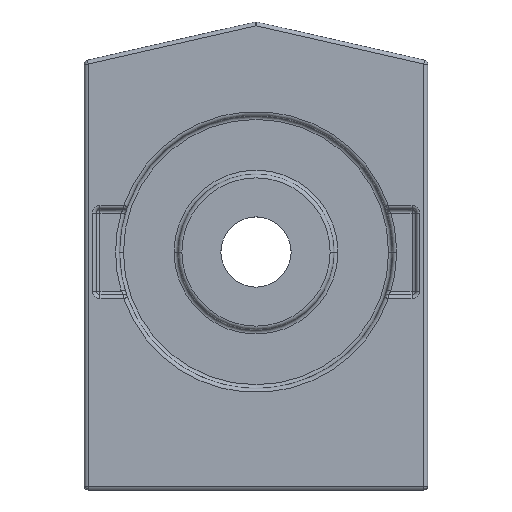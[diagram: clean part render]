
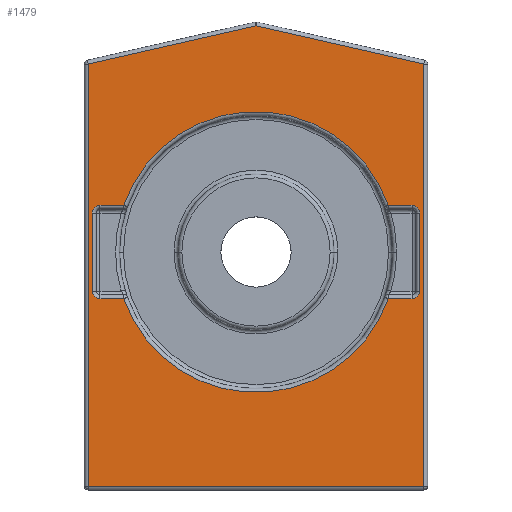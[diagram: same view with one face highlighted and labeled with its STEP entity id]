
A CAD part, top view. The second image highlights one B-rep face of the part: STEP entity #1479.
In plain terms, the highlighted planar face has unit normal (0, 0, 1).
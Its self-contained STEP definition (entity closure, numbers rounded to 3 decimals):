
#27 = EDGE_CURVE ( 'NONE', #1796, #2819, #1722, .T. ) ;
#48 = EDGE_CURVE ( 'NONE', #206, #1909, #442, .T. ) ;
#56 = CARTESIAN_POINT ( 'NONE',  ( 0., 59.487, 0. ) ) ;
#132 = CARTESIAN_POINT ( 'NONE',  ( 21.5, 0., 0. ) ) ;
#171 = DIRECTION ( 'NONE',  ( 1., 0., 0. ) ) ;
#176 = CARTESIAN_POINT ( 'NONE',  ( 21.5, 54.601, 0. ) ) ;
#188 = LINE ( 'NONE', #3469, #2671 ) ;
#206 = VERTEX_POINT ( 'NONE', #1000 ) ;
#255 = ORIENTED_EDGE ( 'NONE', *, *, #48, .T. ) ;
#319 = ORIENTED_EDGE ( 'NONE', *, *, #1793, .T. ) ;
#365 = CARTESIAN_POINT ( 'NONE',  ( -16.971, 36.5, 0. ) ) ;
#401 = CARTESIAN_POINT ( 'NONE',  ( -21., 35.5, 0. ) ) ;
#413 = LINE ( 'NONE', #2832, #1613 ) ;
#419 = DIRECTION ( 'NONE',  ( 0., 1., 0. ) ) ;
#436 = VERTEX_POINT ( 'NONE', #2493 ) ;
#442 = LINE ( 'NONE', #1963, #2814 ) ;
#445 = DIRECTION ( 'NONE',  ( 0., 1., 0. ) ) ;
#486 = VERTEX_POINT ( 'NONE', #401 ) ;
#561 = LINE ( 'NONE', #2341, #3635 ) ;
#563 = EDGE_CURVE ( 'NONE', #827, #1796, #3365, .T. ) ;
#640 = DIRECTION ( 'NONE',  ( -1., 0., 0. ) ) ;
#644 = CARTESIAN_POINT ( 'NONE',  ( -20., 25.5, 0. ) ) ;
#650 = CARTESIAN_POINT ( 'NONE',  ( -20., 36.5, 0. ) ) ;
#680 = FACE_OUTER_BOUND ( 'NONE', #3337, .T. ) ;
#720 = EDGE_CURVE ( 'NONE', #3549, #1909, #1261, .T. ) ;
#737 = VECTOR ( 'NONE', #445, 1000. ) ;
#771 = CARTESIAN_POINT ( 'NONE',  ( -12.856, 56.565, 0. ) ) ;
#799 = CIRCLE ( 'NONE', #2437, 18. ) ;
#807 = ORIENTED_EDGE ( 'NONE', *, *, #1111, .T. ) ;
#827 = VERTEX_POINT ( 'NONE', #3476 ) ;
#832 = CARTESIAN_POINT ( 'NONE',  ( 0., 30.5, 0. ) ) ;
#839 = DIRECTION ( 'NONE',  ( 0., 0., -1. ) ) ;
#884 = CARTESIAN_POINT ( 'NONE',  ( -21.5, 54.601, 0. ) ) ;
#893 = DIRECTION ( 'NONE',  ( 1., 0., 0. ) ) ;
#909 = DIRECTION ( 'NONE',  ( 0., 0., 1. ) ) ;
#1000 = CARTESIAN_POINT ( 'NONE',  ( 16.971, 36.5, 0. ) ) ;
#1022 = LINE ( 'NONE', #1514, #3116 ) ;
#1058 = EDGE_CURVE ( 'NONE', #2678, #2288, #2543, .T. ) ;
#1082 = VERTEX_POINT ( 'NONE', #2791 ) ;
#1111 = EDGE_CURVE ( 'NONE', #3502, #1200, #413, .T. ) ;
#1192 = CIRCLE ( 'NONE', #2567, 18. ) ;
#1200 = VERTEX_POINT ( 'NONE', #3099 ) ;
#1215 = AXIS2_PLACEMENT_3D ( 'NONE', #2870, #3188, #2307 ) ;
#1261 = CIRCLE ( 'NONE', #1215, 1. ) ;
#1351 = DIRECTION ( 'NONE',  ( 0., -1., 0. ) ) ;
#1367 = DIRECTION ( 'NONE',  ( -1., 0., 0. ) ) ;
#1387 = EDGE_CURVE ( 'NONE', #3044, #3502, #1192, .T. ) ;
#1409 = CARTESIAN_POINT ( 'NONE',  ( 0., 30.5, 0. ) ) ;
#1414 = PLANE ( 'NONE',  #3290 ) ;
#1418 = VECTOR ( 'NONE', #1610, 1000. ) ;
#1435 = DIRECTION ( 'NONE',  ( 1., 0., 0. ) ) ;
#1462 = ORIENTED_EDGE ( 'NONE', *, *, #2046, .F. ) ;
#1473 = LINE ( 'NONE', #3095, #737 ) ;
#1479 = ADVANCED_FACE ( 'NONE', ( #680, #2383 ), #1414, .T. ) ;
#1511 = ORIENTED_EDGE ( 'NONE', *, *, #1058, .T. ) ;
#1514 = CARTESIAN_POINT ( 'NONE',  ( 0., 24.5, 0. ) ) ;
#1528 = DIRECTION ( 'NONE',  ( 0., 0., 1. ) ) ;
#1535 = ORIENTED_EDGE ( 'NONE', *, *, #720, .F. ) ;
#1610 = DIRECTION ( 'NONE',  ( -0.975, -0.222, 0. ) ) ;
#1613 = VECTOR ( 'NONE', #1367, 1000. ) ;
#1629 = VERTEX_POINT ( 'NONE', #365 ) ;
#1643 = ORIENTED_EDGE ( 'NONE', *, *, #3137, .F. ) ;
#1722 = LINE ( 'NONE', #2828, #3369 ) ;
#1755 = VERTEX_POINT ( 'NONE', #3049 ) ;
#1792 = CIRCLE ( 'NONE', #3448, 1. ) ;
#1793 = EDGE_CURVE ( 'NONE', #2819, #2678, #2962, .T. ) ;
#1796 = VERTEX_POINT ( 'NONE', #176 ) ;
#1813 = CARTESIAN_POINT ( 'NONE',  ( -16.971, 24.5, 0. ) ) ;
#1847 = CARTESIAN_POINT ( 'NONE',  ( 21., 35.5, 0. ) ) ;
#1909 = VERTEX_POINT ( 'NONE', #2010 ) ;
#1912 = ORIENTED_EDGE ( 'NONE', *, *, #1387, .T. ) ;
#1935 = DIRECTION ( 'NONE',  ( 1., 0., 0. ) ) ;
#1959 = DIRECTION ( 'NONE',  ( 1., 0., 0. ) ) ;
#1963 = CARTESIAN_POINT ( 'NONE',  ( 0., 36.5, 0. ) ) ;
#1973 = EDGE_CURVE ( 'NONE', #1629, #206, #799, .T. ) ;
#2010 = CARTESIAN_POINT ( 'NONE',  ( 20., 36.5, 0. ) ) ;
#2038 = EDGE_CURVE ( 'NONE', #2288, #827, #561, .T. ) ;
#2045 = DIRECTION ( 'NONE',  ( 1., 0., 0. ) ) ;
#2046 = EDGE_CURVE ( 'NONE', #2145, #486, #3495, .T. ) ;
#2082 = EDGE_LOOP ( 'NONE', ( #1643, #2231, #1912, #807, #3081, #2138, #1462, #2730, #2732, #255, #1535, #3767 ) ) ;
#2138 = ORIENTED_EDGE ( 'NONE', *, *, #3681, .T. ) ;
#2145 = VERTEX_POINT ( 'NONE', #650 ) ;
#2225 = DIRECTION ( 'NONE',  ( -0.975, 0.222, 0. ) ) ;
#2231 = ORIENTED_EDGE ( 'NONE', *, *, #2253, .T. ) ;
#2249 = CARTESIAN_POINT ( 'NONE',  ( -16.613, 36.5, 0. ) ) ;
#2253 = EDGE_CURVE ( 'NONE', #436, #3044, #1022, .T. ) ;
#2288 = VERTEX_POINT ( 'NONE', #2694 ) ;
#2307 = DIRECTION ( 'NONE',  ( 1., 0., 0. ) ) ;
#2312 = CARTESIAN_POINT ( 'NONE',  ( 0., 0., 0. ) ) ;
#2341 = CARTESIAN_POINT ( 'NONE',  ( 0., 0.5, 0. ) ) ;
#2383 = FACE_BOUND ( 'NONE', #2082, .T. ) ;
#2437 = AXIS2_PLACEMENT_3D ( 'NONE', #1409, #839, #1959 ) ;
#2467 = AXIS2_PLACEMENT_3D ( 'NONE', #644, #1528, #893 ) ;
#2473 = CARTESIAN_POINT ( 'NONE',  ( 20., 25.5, 0. ) ) ;
#2493 = CARTESIAN_POINT ( 'NONE',  ( 20., 24.5, 0. ) ) ;
#2543 = LINE ( 'NONE', #3093, #3769 ) ;
#2567 = AXIS2_PLACEMENT_3D ( 'NONE', #832, #3179, #1435 ) ;
#2608 = DIRECTION ( 'NONE',  ( 0., 0., 1. ) ) ;
#2615 = DIRECTION ( 'NONE',  ( 1., 0., 0. ) ) ;
#2633 = CARTESIAN_POINT ( 'NONE',  ( -20., 35.5, 0. ) ) ;
#2671 = VECTOR ( 'NONE', #3479, 1000. ) ;
#2678 = VERTEX_POINT ( 'NONE', #884 ) ;
#2694 = CARTESIAN_POINT ( 'NONE',  ( -21.5, 0.5, 0. ) ) ;
#2730 = ORIENTED_EDGE ( 'NONE', *, *, #3636, .T. ) ;
#2732 = ORIENTED_EDGE ( 'NONE', *, *, #1973, .T. ) ;
#2791 = CARTESIAN_POINT ( 'NONE',  ( -21., 25.5, 0. ) ) ;
#2814 = VECTOR ( 'NONE', #171, 1000. ) ;
#2819 = VERTEX_POINT ( 'NONE', #56 ) ;
#2828 = CARTESIAN_POINT ( 'NONE',  ( 12.856, 56.565, 0. ) ) ;
#2832 = CARTESIAN_POINT ( 'NONE',  ( -20.5, 24.5, 0. ) ) ;
#2870 = CARTESIAN_POINT ( 'NONE',  ( 20., 35.5, 0. ) ) ;
#2906 = ORIENTED_EDGE ( 'NONE', *, *, #2038, .T. ) ;
#2919 = EDGE_CURVE ( 'NONE', #3549, #1755, #188, .T. ) ;
#2948 = VECTOR ( 'NONE', #419, 1000. ) ;
#2962 = LINE ( 'NONE', #771, #1418 ) ;
#2989 = ORIENTED_EDGE ( 'NONE', *, *, #563, .T. ) ;
#3044 = VERTEX_POINT ( 'NONE', #3285 ) ;
#3049 = CARTESIAN_POINT ( 'NONE',  ( 21., 25.5, 0. ) ) ;
#3081 = ORIENTED_EDGE ( 'NONE', *, *, #3480, .F. ) ;
#3093 = CARTESIAN_POINT ( 'NONE',  ( -21.5, 0., 0. ) ) ;
#3095 = CARTESIAN_POINT ( 'NONE',  ( -21., 36., 0. ) ) ;
#3099 = CARTESIAN_POINT ( 'NONE',  ( -20., 24.5, 0. ) ) ;
#3104 = DIRECTION ( 'NONE',  ( 1., 0., 0. ) ) ;
#3116 = VECTOR ( 'NONE', #640, 1000. ) ;
#3137 = EDGE_CURVE ( 'NONE', #436, #1755, #1792, .T. ) ;
#3170 = DIRECTION ( 'NONE',  ( 1., 0., 0. ) ) ;
#3179 = DIRECTION ( 'NONE',  ( 0., 0., -1. ) ) ;
#3188 = DIRECTION ( 'NONE',  ( 0., 0., 1. ) ) ;
#3285 = CARTESIAN_POINT ( 'NONE',  ( 16.971, 24.5, 0. ) ) ;
#3290 = AXIS2_PLACEMENT_3D ( 'NONE', #2312, #909, #2615 ) ;
#3300 = CIRCLE ( 'NONE', #2467, 1. ) ;
#3337 = EDGE_LOOP ( 'NONE', ( #319, #1511, #2906, #2989, #3730 ) ) ;
#3365 = LINE ( 'NONE', #132, #2948 ) ;
#3369 = VECTOR ( 'NONE', #2225, 1000. ) ;
#3448 = AXIS2_PLACEMENT_3D ( 'NONE', #2473, #3684, #1935 ) ;
#3469 = CARTESIAN_POINT ( 'NONE',  ( 21., 0., 0. ) ) ;
#3476 = CARTESIAN_POINT ( 'NONE',  ( 21.5, 0.5, 0. ) ) ;
#3479 = DIRECTION ( 'NONE',  ( 0., -1., 0. ) ) ;
#3480 = EDGE_CURVE ( 'NONE', #1082, #1200, #3300, .T. ) ;
#3495 = CIRCLE ( 'NONE', #3560, 1. ) ;
#3502 = VERTEX_POINT ( 'NONE', #1813 ) ;
#3530 = VECTOR ( 'NONE', #3104, 1000. ) ;
#3549 = VERTEX_POINT ( 'NONE', #1847 ) ;
#3560 = AXIS2_PLACEMENT_3D ( 'NONE', #2633, #2608, #3170 ) ;
#3635 = VECTOR ( 'NONE', #2045, 1000. ) ;
#3636 = EDGE_CURVE ( 'NONE', #2145, #1629, #3805, .T. ) ;
#3681 = EDGE_CURVE ( 'NONE', #1082, #486, #1473, .T. ) ;
#3684 = DIRECTION ( 'NONE',  ( 0., 0., 1. ) ) ;
#3730 = ORIENTED_EDGE ( 'NONE', *, *, #27, .T. ) ;
#3767 = ORIENTED_EDGE ( 'NONE', *, *, #2919, .T. ) ;
#3769 = VECTOR ( 'NONE', #1351, 1000. ) ;
#3805 = LINE ( 'NONE', #2249, #3530 ) ;
